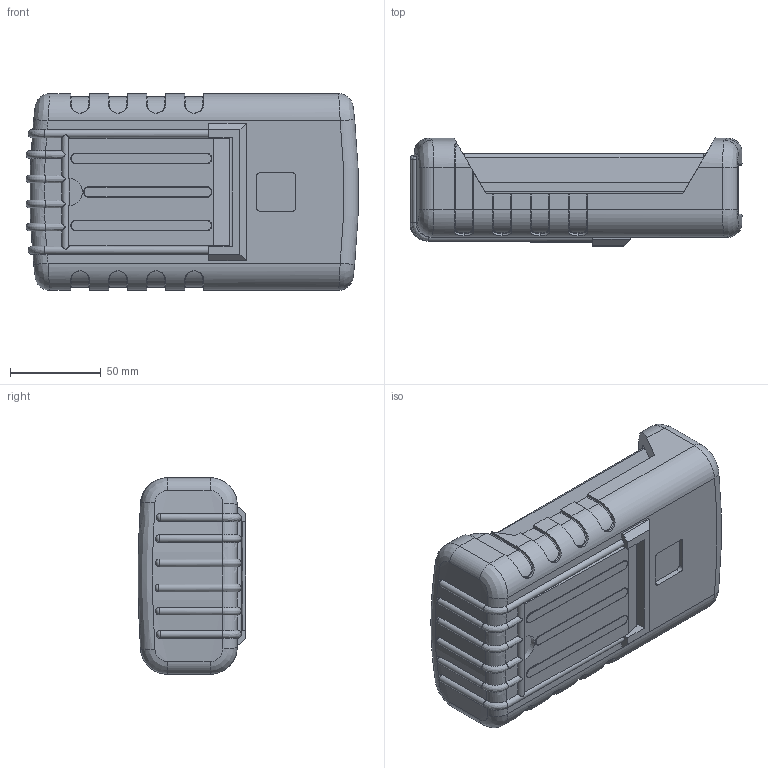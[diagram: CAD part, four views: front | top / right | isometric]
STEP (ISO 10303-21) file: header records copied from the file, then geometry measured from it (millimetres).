
FILE_DESCRIPTION (( 'STEP AP214' ), '1' );
FILE_NAME ('91-42-NO-E-R.STEP', '2020-10-17T15:51:25', ( 'Rudy' ), ( '' ), 'SwSTEP 2.0', 'SolidWorks 2014', '' );
FILE_SCHEMA (( 'AUTOMOTIVE_DESIGN' ));
Length unit declared in the file: millimetre
Products named in the file (8): 90 PCB NO; 90 LCD Expander; 91 LCD Top; 90-no bat-Shallow bottom; 91-42-NO-E-R; 90 RBE Boot; RE 90 stand
Assembly tree (7 placements, depth 3):
  91-42-NO-E-R
    90-no bat-Shallow bottom
    91 LCD Top
    90 LCD Expander
    90 PCB NO
    90 RBE Boot
      90 RBE Boot
      RE 90 stand
Bounding box: 183.26 x 59.56 x 108.46 mm (x, y, z)
Volume: 417644.4 mm3; surface area: 209757 mm2
Topology: 6 solids, 6 shells, 836 faces, 2176 edges, 1391 vertices
Faces by surface type: plane 411, cylinder 247, bspline 76, cone 56, torus 41, sphere 5
Entity records: 32569 total; most frequent: CARTESIAN_POINT 12210, ORIENTED_EDGE 4344, DIRECTION 4023, EDGE_CURVE 2172, AXIS2_PLACEMENT_3D 1411, VERTEX_POINT 1391, VECTOR 1201, LINE 1201
